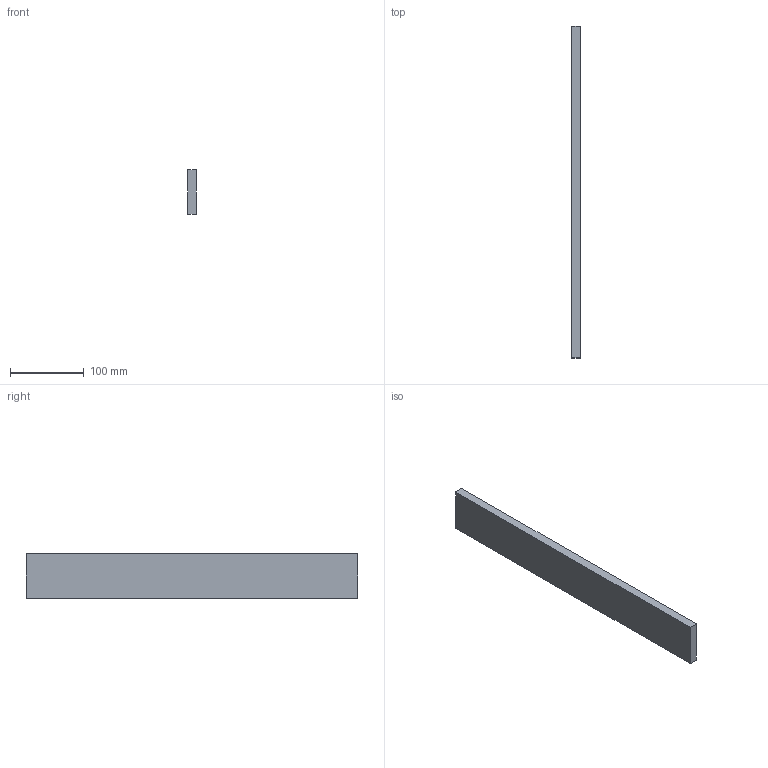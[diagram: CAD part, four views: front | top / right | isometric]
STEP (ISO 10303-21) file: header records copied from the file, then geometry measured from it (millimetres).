
FILE_DESCRIPTION(('CATIA V5 STEP Exchange'),'2;1');
FILE_NAME('C:\Users\user\Documents\Jakob\BAC - Arbeit 1\CAD Modell\CAD-Modell-Step files\Base\Side1.stp','2018-12-13T14:13:39+00:00',('none'),('none'),'Version 5-6 Release 2012','CATIA V5 STEP AP203','none');
FILE_SCHEMA(('CONFIG_CONTROL_DESIGN'));
Length unit declared in the file: millimetre
Products named in the file (1): Base_side
Bounding box: 12 x 450 x 60 mm (x, y, z)
Volume: 324000 mm3; surface area: 66240 mm2
Topology: 1 solids, 1 shells, 6 faces, 12 edges, 8 vertices
Faces by surface type: plane 6
Entity records: 198 total; most frequent: CARTESIAN_POINT 27, DIRECTION 24, ORIENTED_EDGE 24, VECTOR 12, EDGE_CURVE 12, LINE 12, VERTEX_POINT 8, AXIS2_PLACEMENT_3D 7
